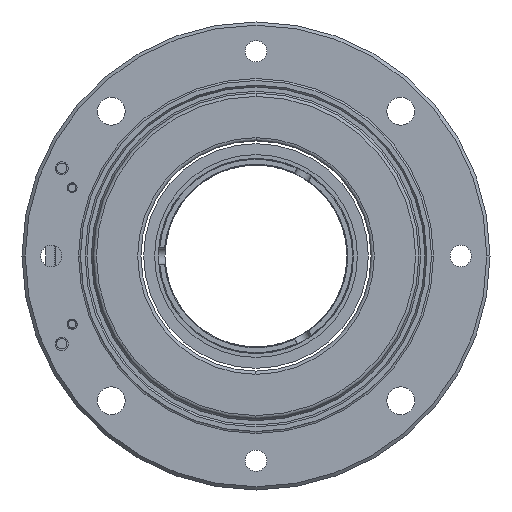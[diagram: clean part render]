
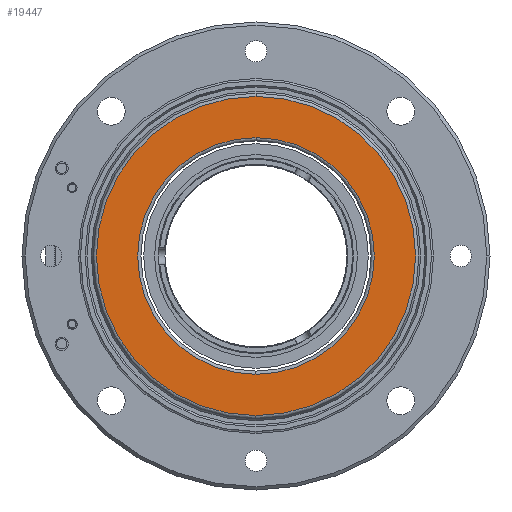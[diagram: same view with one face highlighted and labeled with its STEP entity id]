
A CAD part, left-side view. The second image highlights one B-rep face of the part: STEP entity #19447.
In plain terms, the highlighted planar face has unit normal (-1, 0, 0).
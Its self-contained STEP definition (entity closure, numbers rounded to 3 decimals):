
#18654=CARTESIAN_POINT('',(0.,0.,0.));
#18655=DIRECTION('',(-1.,0.,0.));
#18656=DIRECTION('',(0.,1.,0.));
#18657=AXIS2_PLACEMENT_3D('',#18654,#18655,#18656);
#18662=CARTESIAN_POINT('',(0.,0.,0.));
#18663=DIRECTION('',(-1.,0.,0.));
#18664=DIRECTION('',(0.,-1.,0.));
#18665=AXIS2_PLACEMENT_3D('',#18662,#18663,#18664);
#18670=CARTESIAN_POINT('',(0.,0.,0.));
#18671=DIRECTION('',(-1.,0.,0.));
#18672=DIRECTION('',(0.,-1.,0.));
#18673=AXIS2_PLACEMENT_3D('',#18670,#18671,#18672);
#18678=CARTESIAN_POINT('',(0.,0.,0.));
#18679=DIRECTION('',(-1.,0.,0.));
#18680=DIRECTION('',(0.,1.,0.));
#18681=AXIS2_PLACEMENT_3D('',#18678,#18679,#18680);
#18988=CARTESIAN_POINT('',(0.,24.55,0.));
#18989=CARTESIAN_POINT('',(0.,-24.55,0.));
#18990=VERTEX_POINT('',#18988);
#18991=VERTEX_POINT('',#18989);
#19000=CARTESIAN_POINT('',(0.,-18.2,0.));
#19001=CARTESIAN_POINT('',(0.,18.2,0.));
#19002=VERTEX_POINT('',#19000);
#19003=VERTEX_POINT('',#19001);
#19431=CARTESIAN_POINT('',(0.,0.,0.));
#19432=DIRECTION('',(1.,0.,0.));
#19433=DIRECTION('',(0.,-1.,0.));
#19434=AXIS2_PLACEMENT_3D('',#19431,#19432,#19433);
#19435=PLANE('',#19434);
#19436=ORIENTED_EDGE('',*,*,#19414,.F.);
#19438=ORIENTED_EDGE('',*,*,#19437,.F.);
#19439=EDGE_LOOP('',(#19436,#19438));
#19440=FACE_OUTER_BOUND('',#19439,.F.);
#19442=ORIENTED_EDGE('',*,*,#19441,.T.);
#19444=ORIENTED_EDGE('',*,*,#19443,.T.);
#19445=EDGE_LOOP('',(#19442,#19444));
#19446=FACE_BOUND('',#19445,.F.);
#19447=ADVANCED_FACE('',(#19440,#19446),#19435,.F.);
#18658=CIRCLE('',#18657,24.55);
#18666=CIRCLE('',#18665,24.55);
#18674=CIRCLE('',#18673,18.2);
#18682=CIRCLE('',#18681,18.2);
#19414=EDGE_CURVE('',#18990,#18991,#18658,.T.);
#19437=EDGE_CURVE('',#18991,#18990,#18666,.T.);
#19441=EDGE_CURVE('',#19002,#19003,#18674,.T.);
#19443=EDGE_CURVE('',#19003,#19002,#18682,.T.);
